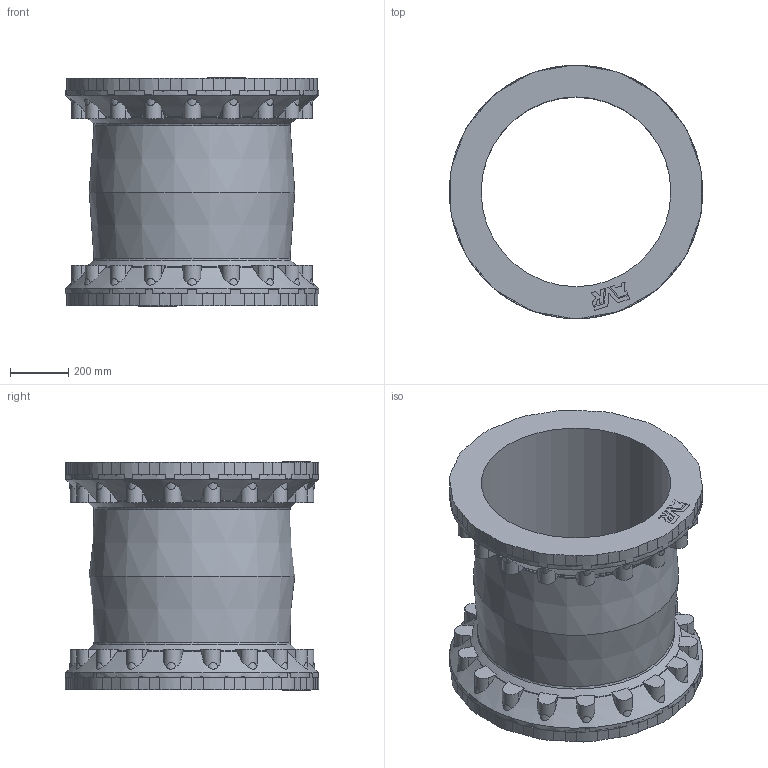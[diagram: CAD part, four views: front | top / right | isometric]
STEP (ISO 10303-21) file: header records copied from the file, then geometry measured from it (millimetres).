
FILE_DESCRIPTION (( 'STEP AP203' ), '1' );
FILE_NAME ('O_631_00_DN600_AA0.step', '2018-07-03T05:44:19', ( 'Windows User' ), ( 'AVK' ), 'SwSTEP 2.0', 'SolidWorks 2012', '' );
FILE_SCHEMA (( 'CONFIG_CONTROL_DESIGN' ));
Length unit declared in the file: millimetre
Products named in the file (1): O_631_00_DN600_AA0
Bounding box: 870 x 870.98 x 783.99 mm (x, y, z)
Volume: 79398713.3 mm3; surface area: 4324541.3 mm2
Topology: 1 solids, 1 shells, 545 faces, 1603 edges, 1066 vertices
Faces by surface type: cylinder 255, plane 180, cone 72, bspline 36, torus 2
Full cylindrical faces by diameter (mm): 652 x1, 870 x2
Entity records: 26199 total; most frequent: CARTESIAN_POINT 12334, ORIENTED_EDGE 3162, DIRECTION 2578, EDGE_CURVE 1581, VERTEX_POINT 1057, AXIS2_PLACEMENT_3D 963, VECTOR 652, LINE 652
